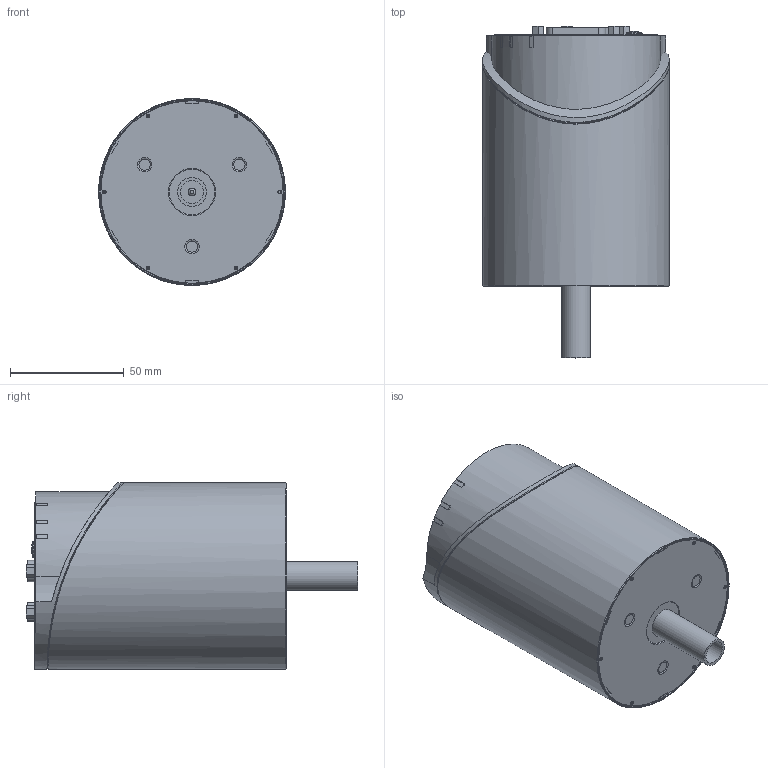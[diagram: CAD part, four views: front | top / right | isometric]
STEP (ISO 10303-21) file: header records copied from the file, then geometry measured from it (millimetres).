
FILE_DESCRIPTION(/* description */ (''),/* implementation_level */ '2;1');
FILE_NAME(/* name */ 'M:\Lehrlinge\09_Jeremy Studer\Step-dateien generieren\STEP\MCDG045D_tube_P-Bus.stp',/* time_stamp */ '2017-03-16T14:36:14+01:00',/* author */ ('STUJ'),/* organization */ (''),/* preprocessor_version */ 'ST-DEVELOPER v16.1',/* originating_system */ 'Autodesk Inventor 2016',/* authorisation */ '');
FILE_SCHEMA (('AUTOMOTIVE_DESIGN { 1 0 10303 214 3 1 1 }'));
Length unit declared in the file: millimetre
Products named in the file (1): Bauteil4
Bounding box: 82 x 145.75 x 82 mm (x, y, z)
Volume: 568994.9 mm3; surface area: 46843.1 mm2
Topology: 1 solids, 9 shells, 615 faces, 1573 edges, 997 vertices
Faces by surface type: plane 288, cylinder 223, sphere 36, bspline 35, torus 22, cone 11
Full cylindrical faces by diameter (mm): 0.8 x9, 1 x15, 1.5 x2, 2.156 x4, 2.5 x1, 2.8 x1, 2.845 x4, 2.9 x1, 3 x2, 3.2 x5, 3.4 x3, 4.5 x1, 7 x1, 10.2 x1, 12.7 x1, 82 x2
Entity records: 19773 total; most frequent: CARTESIAN_POINT 4874, DIRECTION 2935, ORIENTED_EDGE 2828, EDGE_CURVE 1407, AXIS2_PLACEMENT_3D 1070, VERTEX_POINT 940, LINE 795, VECTOR 795
